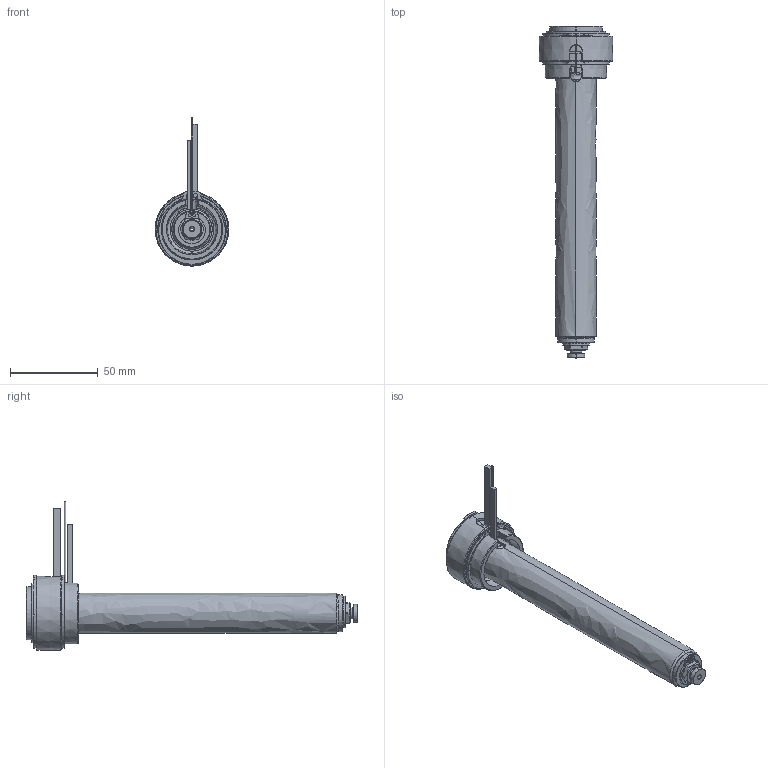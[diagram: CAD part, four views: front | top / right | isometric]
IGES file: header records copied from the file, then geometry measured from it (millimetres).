
Start section: SolidWorks IGES file using analytic representation for surfaces
Global section: file name: C:\Users\luca.EMPAD\Desktop\TEM\UGBE3504-M-A-5 [Ød-1.5 P-0 ØC-7.0].IGS; native system: SolidWorks 2012; preprocessor: SolidWorks 2012; author: luca; date: 120330.140556; units: millimetre
Bounding box: 42 x 189 x 84.4 mm (x, y, z)
Surface area: 34829.2 mm2 (no closed solid volume)
Topology: 0 solids, 0 shells, 176 faces, 3196 edges, 3196 vertices
Faces by surface type: revolution 111, bspline 65
